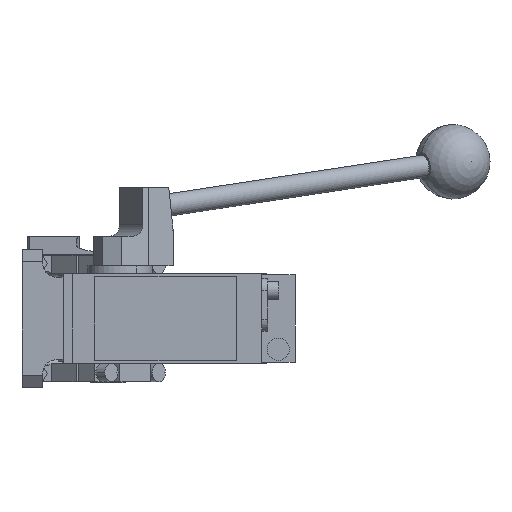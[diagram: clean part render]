
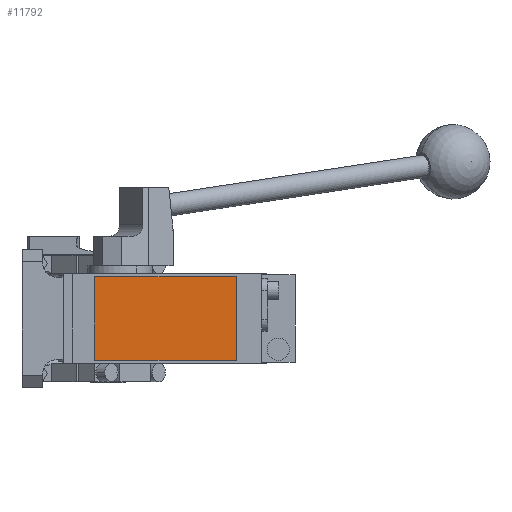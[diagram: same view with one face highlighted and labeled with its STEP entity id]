
A CAD part, front view. The second image highlights one B-rep face of the part: STEP entity #11792.
In plain terms, the highlighted planar face has unit normal (0, -1, 0).
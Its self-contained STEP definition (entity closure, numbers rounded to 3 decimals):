
#1298 = EDGE_CURVE ( 'NONE', #6795, #14572, #8845, .T. ) ;
#2019 = EDGE_LOOP ( 'NONE', ( #6684, #13201, #8468, #11144 ) ) ;
#2181 = VERTEX_POINT ( 'NONE', #5050 ) ;
#2267 = DIRECTION ( 'NONE',  ( 0., -1., 0. ) ) ;
#2566 = DIRECTION ( 'NONE',  ( 1., 0., 0. ) ) ;
#2927 = EDGE_CURVE ( 'NONE', #12136, #6795, #9544, .T. ) ;
#3668 = LINE ( 'NONE', #13546, #11931 ) ;
#3917 = DIRECTION ( 'NONE',  ( 0., 0., -1. ) ) ;
#5050 = CARTESIAN_POINT ( 'NONE',  ( 69., -280.5, -22.5 ) ) ;
#5627 = EDGE_CURVE ( 'NONE', #2181, #12136, #3668, .T. ) ;
#5662 = VECTOR ( 'NONE', #2566, 1000. ) ;
#6684 = ORIENTED_EDGE ( 'NONE', *, *, #1298, .T. ) ;
#6795 = VERTEX_POINT ( 'NONE', #11985 ) ;
#7189 = CARTESIAN_POINT ( 'NONE',  ( 0., -280.5, 0. ) ) ;
#7401 = VECTOR ( 'NONE', #3917, 1000. ) ;
#8468 = ORIENTED_EDGE ( 'NONE', *, *, #5627, .T. ) ;
#8516 = DIRECTION ( 'NONE',  ( 0., 0., 1. ) ) ;
#8845 = LINE ( 'NONE', #8930, #7401 ) ;
#8930 = CARTESIAN_POINT ( 'NONE',  ( -7., -280.5, 22.5 ) ) ;
#9179 = CARTESIAN_POINT ( 'NONE',  ( -7., -280.5, -22.5 ) ) ;
#9311 = CARTESIAN_POINT ( 'NONE',  ( -7., -280.5, 22.5 ) ) ;
#9452 = CARTESIAN_POINT ( 'NONE',  ( 69., -280.5, 22.5 ) ) ;
#9528 = EDGE_CURVE ( 'NONE', #14572, #2181, #9769, .T. ) ;
#9544 = LINE ( 'NONE', #9311, #15557 ) ;
#9636 = PLANE ( 'NONE',  #13241 ) ;
#9769 = LINE ( 'NONE', #9933, #5662 ) ;
#9933 = CARTESIAN_POINT ( 'NONE',  ( -7., -280.5, -22.5 ) ) ;
#10847 = FACE_OUTER_BOUND ( 'NONE', #2019, .T. ) ;
#11144 = ORIENTED_EDGE ( 'NONE', *, *, #2927, .T. ) ;
#11792 = ADVANCED_FACE ( 'NONE', ( #10847 ), #9636, .T. ) ;
#11809 = DIRECTION ( 'NONE',  ( -1., 0., 0. ) ) ;
#11931 = VECTOR ( 'NONE', #8516, 1000. ) ;
#11985 = CARTESIAN_POINT ( 'NONE',  ( -7., -280.5, 22.5 ) ) ;
#12136 = VERTEX_POINT ( 'NONE', #9452 ) ;
#12143 = DIRECTION ( 'NONE',  ( 0., 0., -1. ) ) ;
#13201 = ORIENTED_EDGE ( 'NONE', *, *, #9528, .T. ) ;
#13241 = AXIS2_PLACEMENT_3D ( 'NONE', #7189, #2267, #12143 ) ;
#13546 = CARTESIAN_POINT ( 'NONE',  ( 69., -280.5, 22.5 ) ) ;
#14572 = VERTEX_POINT ( 'NONE', #9179 ) ;
#15557 = VECTOR ( 'NONE', #11809, 1000. ) ;
